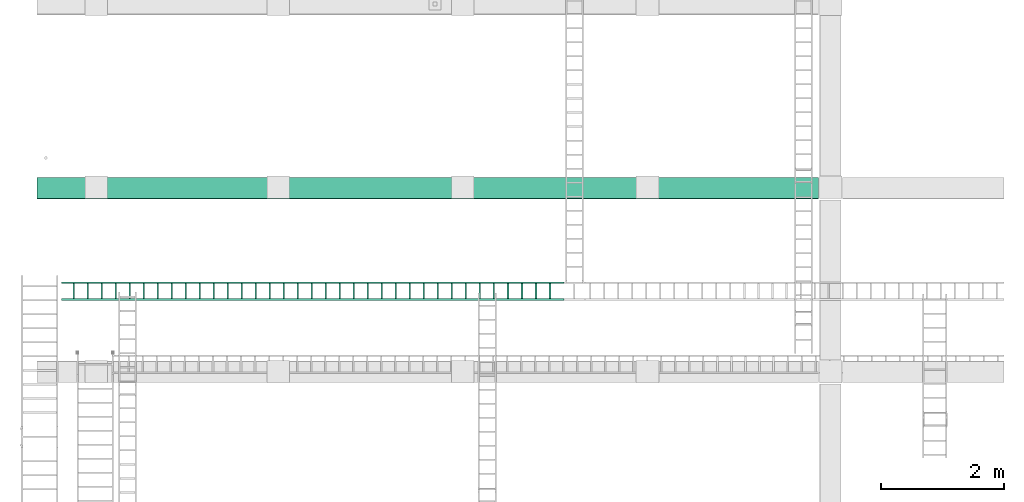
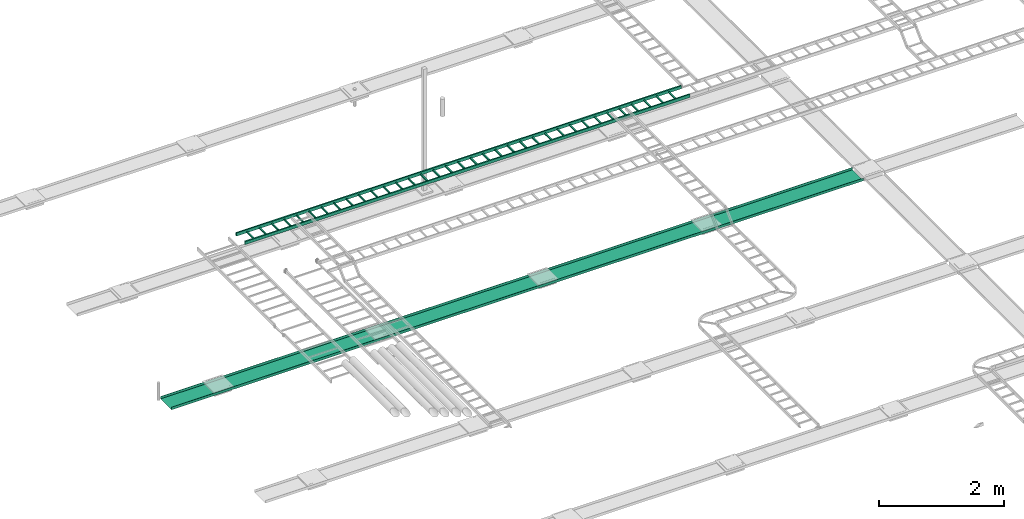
# One storey, part 10 of 16: 2 flow segments.
"""IFC2X3 building model written with IfcOpenShell, lengths in millimetres."""

from ifc_helpers import new_model, entity, si_unit, converted_unit, derived_unit, direction, frame, origin_with_axes, place, context, subcontext, project, spatial, open_shell, faceted_brep, surface_model, source, transform, mapped, type_object, element, save


model = new_model("IFC2X3")

# Units and contexts
model_context = context("Model", 3, precision=0.01, world=frame((0.0, 4.29681676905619e-09, 0.0)), true_north=direction((4.01073788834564e-13, 1.0)))
plan_context = context("Plan", 3, precision=0.01, world=frame((0.0, 4.29681676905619e-09, 0.0)), true_north=direction((4.01073788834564e-13, 1.0)))
body_context = subcontext(model_context, "Body", "Model", "MODEL_VIEW")
ifc_project = project(units=[converted_unit("PLANEANGLEUNIT", "DEGREE", entity("IfcPositiveLengthMeasure", 0.0174532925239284), si_unit("PLANEANGLEUNIT", "RADIAN"), dimensions=[0, 0, 0, 0, 0, 0, 0]), si_unit("AREAUNIT", "SQUARE_METRE"), si_unit("LENGTHUNIT", "METRE", prefix="MILLI"), si_unit("MASSUNIT", "GRAM", prefix="KILO"), si_unit("POWERUNIT", "WATT"), si_unit("PRESSUREUNIT", "PASCAL"), si_unit("FORCEUNIT", "NEWTON", prefix="KILO"), si_unit("ELECTRICVOLTAGEUNIT", "VOLT"), si_unit("ELECTRICCURRENTUNIT", "AMPERE"), si_unit("THERMODYNAMICTEMPERATUREUNIT", "DEGREE_CELSIUS"), si_unit("TIMEUNIT", "SECOND"), si_unit("VOLUMEUNIT", "CUBIC_METRE"), derived_unit("LINEARVELOCITYUNIT", [(si_unit("LENGTHUNIT", "METRE"), 1), (si_unit("TIMEUNIT", "SECOND"), -1)]), derived_unit("VOLUMETRICFLOWRATEUNIT", [(si_unit("VOLUMEUNIT", "CUBIC_METRE"), 1), (si_unit("TIMEUNIT", "SECOND"), -1)]), derived_unit("THERMALTRANSMITTANCEUNIT", [(si_unit("POWERUNIT", "WATT"), 1), (si_unit("THERMODYNAMICTEMPERATUREUNIT", "KELVIN"), -1), (si_unit("AREAUNIT", "SQUARE_METRE"), -1)]), derived_unit("SOUNDPRESSUREUNIT", [(si_unit("PRESSUREUNIT", "PASCAL"), 1)])], contexts=[model_context, plan_context])

# Site, building, storey
site_placement = place(None, frame((0.0, -4.29681676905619e-09, 0.0), z_axis=(0.0, 0.0, 1.0), x_axis=(1.0, 0.0, 0.0)))
site = spatial("IfcSite", under=ifc_project, at=site_placement, Name="ENGM", CompositionType="ELEMENT")
building_placement = place(site_placement, frame((0.0, 4.29681676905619e-09, 0.0), z_axis=(0.0, 0.0, 1.0), x_axis=(1.0, 0.0, 0.0)))
building = spatial("IfcBuilding", under=site, at=building_placement, Name="TS", CompositionType="ELEMENT")
storey_placement = place(building_placement, frame((0.0, 0.0, 210900.0), z_axis=(0.0, 0.0, 1.0), x_axis=(1.0, 0.0, 0.0)))
storey = spatial("IfcBuildingStorey", under=building, at=storey_placement, Name="Nivå F", CompositionType="ELEMENT", Elevation=210900.0)

# Flow segments
cable_carrier_segment_type_1 = type_object("IfcCableCarrierSegmentType", Name="Kabelbro", PredefinedType="CABLELADDERSEGMENT")
shared_shape = source(origin_with_axes(), body_context, "Body", "SurfaceModel", [
    surface_model("IfcShellBasedSurfaceModel", [(0.0, -124.6, -30.0), (0.0, -150.0, -30.0), (0.0, -150.0, 30.0), (0.0, -124.6, 30.0), (0.0, 150.0, -30.0), (0.0, 124.6, -30.0), (0.0, 124.6, 30.0), (0.0, 150.0, 30.0), (241.30001, -124.6, -30.0), (241.30001, -124.6, -4.6), (215.89999, -124.6, -4.6), (215.89999, -124.6, -30.0), (215.89999, 124.6, -4.6), (241.30001, 124.6, -4.6), (241.30001, 124.6, -30.0), (215.89999, 124.6, -30.0), (469.89999, -124.6, -30.0), (469.89999, -124.6, -4.6), (444.50001, -124.6, -4.6), (444.50001, -124.6, -30.0), (444.50001, 124.6, -4.6), (469.89999, 124.6, -4.6), (469.89999, 124.6, -30.0), (444.50001, 124.6, -30.0), (698.50002, -124.6, -30.0), (698.50002, -124.6, -4.6), (673.09998, -124.6, -4.6), (673.09998, -124.6, -30.0), (673.09998, 124.6, -4.6), (698.50002, 124.6, -4.6), (698.50002, 124.6, -30.0), (673.09998, 124.6, -30.0), (927.10002, -124.6, -30.0), (927.10002, -124.6, -4.6), (901.69998, -124.6, -4.6), (901.69998, -124.6, -30.0), (901.69998, 124.6, -4.6), (927.10002, 124.6, -4.6), (927.10002, 124.6, -30.0), (901.69998, 124.6, -30.0), (1155.70002, -124.6, -30.0), (1155.70002, -124.6, -4.6), (1130.29998, -124.6, -4.6), (1130.29998, -124.6, -30.0), (1130.29998, 124.6, -4.6), (1155.70002, 124.6, -4.6), (1155.70002, 124.6, -30.0), (1130.29998, 124.6, -30.0), (1384.29995, -124.6, -30.0), (1384.29995, -124.6, -4.6), (1358.90005, -124.6, -4.6), (1358.90005, -124.6, -30.0), (1358.90005, 124.6, -4.6), (1384.29995, 124.6, -4.6), (1384.29995, 124.6, -30.0), (1358.90005, 124.6, -30.0), (1612.89995, -124.6, -30.0), (1612.89995, -124.6, -4.6), (1587.50005, -124.6, -4.6), (1587.50005, -124.6, -30.0), (1587.50005, 124.6, -4.6), (1612.89995, 124.6, -4.6), (1612.89995, 124.6, -30.0), (1587.50005, 124.6, -30.0), (1841.49995, -124.6, -30.0), (1841.49995, -124.6, -4.6), (1816.10005, -124.6, -4.6), (1816.10005, -124.6, -30.0), (1816.10005, 124.6, -4.6), (1841.49995, 124.6, -4.6), (1841.49995, 124.6, -30.0), (1816.10005, 124.6, -30.0), (2070.09995, -124.6, -30.0), (2070.09995, -124.6, -4.6), (2044.70005, -124.6, -4.6), (2044.70005, -124.6, -30.0), (2044.70005, 124.6, -4.6), (2070.09995, 124.6, -4.6), (2070.09995, 124.6, -30.0), (2044.70005, 124.6, -30.0), (2298.69995, -124.6, -30.0), (2298.69995, -124.6, -4.6), (2273.30005, -124.6, -4.6), (2273.30005, -124.6, -30.0), (2273.30005, 124.6, -4.6), (2298.69995, 124.6, -4.6), (2298.69995, 124.6, -30.0), (2273.30005, 124.6, -30.0), (2527.3001, -124.6, -30.0), (2527.3001, -124.6, -4.6), (2501.8999, -124.6, -4.6), (2501.8999, -124.6, -30.0), (2501.8999, 124.6, -4.6), (2527.3001, 124.6, -4.6), (2527.3001, 124.6, -30.0), (2501.8999, 124.6, -30.0), (2755.9001, -124.6, -30.0), (2755.9001, -124.6, -4.6), (2730.4999, -124.6, -4.6), (2730.4999, -124.6, -30.0), (2730.4999, 124.6, -4.6), (2755.9001, 124.6, -4.6), (2755.9001, 124.6, -30.0), (2730.4999, 124.6, -30.0), (2984.5001, -124.6, -30.0), (2984.5001, -124.6, -4.6), (2959.0999, -124.6, -4.6), (2959.0999, -124.6, -30.0), (2959.0999, 124.6, -4.6), (2984.5001, 124.6, -4.6), (2984.5001, 124.6, -30.0), (2959.0999, 124.6, -30.0), (3213.1001, -124.6, -30.0), (3213.1001, -124.6, -4.6), (3187.6999, -124.6, -4.6), (3187.6999, -124.6, -30.0), (3187.6999, 124.6, -4.6), (3213.1001, 124.6, -4.6), (3213.1001, 124.6, -30.0), (3187.6999, 124.6, -30.0), (3441.7001, -124.6, -30.0), (3441.7001, -124.6, -4.6), (3416.2999, -124.6, -4.6), (3416.2999, -124.6, -30.0), (3416.2999, 124.6, -4.6), (3441.7001, 124.6, -4.6), (3441.7001, 124.6, -30.0), (3416.2999, 124.6, -30.0), (3670.3001, -124.6, -30.0), (3670.3001, -124.6, -4.6), (3644.8999, -124.6, -4.6), (3644.8999, -124.6, -30.0), (3644.8999, 124.6, -4.6), (3670.3001, 124.6, -4.6), (3670.3001, 124.6, -30.0), (3644.8999, 124.6, -30.0), (3898.9001, -124.6, -30.0), (3898.9001, -124.6, -4.6), (3873.4999, -124.6, -4.6), (3873.4999, -124.6, -30.0), (3873.4999, 124.6, -4.6), (3898.9001, 124.6, -4.6), (3898.9001, 124.6, -30.0), (3873.4999, 124.6, -30.0), (4127.5001, -124.6, -30.0), (4127.5001, -124.6, -4.6), (4102.0999, -124.6, -4.6), (4102.0999, -124.6, -30.0), (4102.0999, 124.6, -4.6), (4127.5001, 124.6, -4.6), (4127.5001, 124.6, -30.0), (4102.0999, 124.6, -30.0), (4356.1001, -124.6, -30.0), (4356.1001, -124.6, -4.6), (4330.6999, -124.6, -4.6), (4330.6999, -124.6, -30.0), (4330.6999, 124.6, -4.6), (4356.1001, 124.6, -4.6), (4356.1001, 124.6, -30.0), (4330.6999, 124.6, -30.0), (4584.7001, -124.6, -30.0), (4584.7001, -124.6, -4.6), (4559.2999, -124.6, -4.6), (4559.2999, -124.6, -30.0), (4559.2999, 124.6, -4.6), (4584.7001, 124.6, -4.6), (4584.7001, 124.6, -30.0), (4559.2999, 124.6, -30.0), (4813.3001, -124.6, -30.0), (4813.3001, -124.6, -4.6), (4787.8999, -124.6, -4.6), (4787.8999, -124.6, -30.0), (4787.8999, 124.6, -4.6), (4813.3001, 124.6, -4.6), (4813.3001, 124.6, -30.0), (4787.8999, 124.6, -30.0), (5041.89981, -124.6, -30.0), (5041.89981, -124.6, -4.6), (5016.50019, -124.6, -4.6), (5016.50019, -124.6, -30.0), (5016.50019, 124.6, -4.6), (5041.89981, 124.6, -4.6), (5041.89981, 124.6, -30.0), (5016.50019, 124.6, -30.0), (5270.49981, -124.6, -30.0), (5270.49981, -124.6, -4.6), (5245.10019, -124.6, -4.6), (5245.10019, -124.6, -30.0), (5245.10019, 124.6, -4.6), (5270.49981, 124.6, -4.6), (5270.49981, 124.6, -30.0), (5245.10019, 124.6, -30.0), (5499.09981, -124.6, -4.6), (5499.09981, -124.6, -30.0), (5499.09981, 124.6, -30.0), (5499.09981, 124.6, -4.6), (5473.70019, -124.6, -4.6), (5473.70019, 124.6, -4.6), (5473.70019, -124.6, -30.0), (5473.70019, 124.6, -30.0), (5727.69981, -124.6, -4.6), (5727.69981, -124.6, -30.0), (5727.69981, 124.6, -30.0), (5727.69981, 124.6, -4.6), (5702.30019, -124.6, -4.6), (5702.30019, 124.6, -4.6), (5702.30019, -124.6, -30.0), (5702.30019, 124.6, -30.0), (5956.29981, -124.6, -4.6), (5956.29981, -124.6, -30.0), (5956.29981, 124.6, -30.0), (5956.29981, 124.6, -4.6), (5930.90019, -124.6, -4.6), (5930.90019, 124.6, -4.6), (5930.90019, -124.6, -30.0), (5930.90019, 124.6, -30.0), (6184.89981, -124.6, -4.6), (6184.89981, -124.6, -30.0), (6184.89981, 124.6, -30.0), (6184.89981, 124.6, -4.6), (6159.50019, -124.6, -4.6), (6159.50019, 124.6, -4.6), (6159.50019, -124.6, -30.0), (6159.50019, 124.6, -30.0), (6413.49981, -124.6, -4.6), (6413.49981, -124.6, -30.0), (6413.49981, 124.6, -30.0), (6413.49981, 124.6, -4.6), (6388.10019, -124.6, -4.6), (6388.10019, 124.6, -4.6), (6388.10019, -124.6, -30.0), (6388.10019, 124.6, -30.0), (6642.09981, -124.6, -4.6), (6642.09981, -124.6, -30.0), (6642.09981, 124.6, -30.0), (6642.09981, 124.6, -4.6), (6616.70019, -124.6, -4.6), (6616.70019, 124.6, -4.6), (6616.70019, -124.6, -30.0), (6616.70019, 124.6, -30.0), (6870.69981, -124.6, -4.6), (6870.69981, -124.6, -30.0), (6870.69981, 124.6, -30.0), (6870.69981, 124.6, -4.6), (6845.30019, -124.6, -4.6), (6845.30019, 124.6, -4.6), (6845.30019, -124.6, -30.0), (6845.30019, 124.6, -30.0), (7099.29981, -124.6, -4.6), (7099.29981, -124.6, -30.0), (7099.29981, 124.6, -30.0), (7099.29981, 124.6, -4.6), (7073.90019, -124.6, -4.6), (7073.90019, 124.6, -4.6), (7073.90019, -124.6, -30.0), (7073.90019, 124.6, -30.0), (7327.89981, -124.6, -4.6), (7327.89981, -124.6, -30.0), (7327.89981, 124.6, -30.0), (7327.89981, 124.6, -4.6), (7302.50019, -124.6, -4.6), (7302.50019, 124.6, -4.6), (7302.50019, -124.6, -30.0), (7302.50019, 124.6, -30.0), (7531.10019, -124.6, -4.6), (7531.10019, -124.6, -30.0), (7556.49981, -124.6, -30.0), (7556.49981, -124.6, -4.6), (7556.49981, 124.6, -30.0), (7531.10019, 124.6, -30.0), (7531.10019, 124.6, -4.6), (7556.49981, 124.6, -4.6), (7759.70019, -124.6, -4.6), (7759.70019, -124.6, -30.0), (7785.09981, -124.6, -30.0), (7785.09981, -124.6, -4.6), (7785.09981, 124.6, -30.0), (7759.70019, 124.6, -30.0), (7759.70019, 124.6, -4.6), (7785.09981, 124.6, -4.6), (7988.30019, -124.6, -4.6), (7988.30019, -124.6, -30.0), (8013.69981, -124.6, -30.0), (8013.69981, -124.6, -4.6), (8013.69981, 124.6, -30.0), (7988.30019, 124.6, -30.0), (7988.30019, 124.6, -4.6), (8013.69981, 124.6, -4.6), (8199.26174, -150.0, 30.0), (8199.26174, -150.0, -30.0), (8199.26174, -124.6, -30.0), (8199.26174, -124.6, 30.0), (8199.26174, 124.6, 30.0), (8199.26174, 124.6, -30.0), (8199.26174, 150.0, -30.0), (8199.26174, 150.0, 30.0)], [open_shell([[[0, 1, 2]], [[2, 3, 0]], [[4, 5, 6]], [[6, 7, 4]], [[8, 9, 10]], [[10, 11, 8]], [[12, 13, 14]], [[14, 15, 12]], [[9, 8, 14]], [[14, 13, 9]], [[10, 9, 12]], [[13, 12, 9]], [[11, 10, 12]], [[12, 15, 11]], [[8, 11, 14]], [[15, 14, 11]], [[16, 17, 18]], [[18, 19, 16]], [[20, 21, 22]], [[22, 23, 20]], [[17, 16, 22]], [[22, 21, 17]], [[18, 17, 20]], [[21, 20, 17]], [[19, 18, 20]], [[20, 23, 19]], [[16, 19, 22]], [[23, 22, 19]], [[24, 25, 26]], [[26, 27, 24]], [[28, 29, 30]], [[30, 31, 28]], [[25, 24, 30]], [[30, 29, 25]], [[26, 25, 28]], [[29, 28, 25]], [[27, 26, 28]], [[28, 31, 27]], [[24, 27, 30]], [[31, 30, 27]], [[32, 33, 34]], [[34, 35, 32]], [[36, 37, 38]], [[38, 39, 36]], [[33, 32, 38]], [[38, 37, 33]], [[34, 33, 36]], [[37, 36, 33]], [[35, 34, 36]], [[36, 39, 35]], [[32, 35, 38]], [[39, 38, 35]], [[40, 41, 42]], [[42, 43, 40]], [[44, 45, 46]], [[46, 47, 44]], [[41, 40, 46]], [[46, 45, 41]], [[42, 41, 44]], [[45, 44, 41]], [[43, 42, 44]], [[44, 47, 43]], [[40, 43, 46]], [[47, 46, 43]], [[48, 49, 50]], [[50, 51, 48]], [[52, 53, 54]], [[54, 55, 52]], [[49, 48, 54]], [[54, 53, 49]], [[50, 49, 52]], [[53, 52, 49]], [[51, 50, 52]], [[52, 55, 51]], [[48, 51, 54]], [[55, 54, 51]], [[56, 57, 58]], [[58, 59, 56]], [[60, 61, 62]], [[62, 63, 60]], [[57, 56, 62]], [[62, 61, 57]], [[58, 57, 60]], [[61, 60, 57]], [[59, 58, 60]], [[60, 63, 59]], [[56, 59, 62]], [[63, 62, 59]], [[64, 65, 66]], [[66, 67, 64]], [[68, 69, 70]], [[70, 71, 68]], [[65, 64, 70]], [[70, 69, 65]], [[66, 65, 68]], [[69, 68, 65]], [[67, 66, 68]], [[68, 71, 67]], [[64, 67, 70]], [[71, 70, 67]], [[72, 73, 74]], [[74, 75, 72]], [[76, 77, 78]], [[78, 79, 76]], [[73, 72, 78]], [[78, 77, 73]], [[74, 73, 76]], [[77, 76, 73]], [[75, 74, 76]], [[76, 79, 75]], [[72, 75, 78]], [[79, 78, 75]], [[80, 81, 82]], [[82, 83, 80]], [[84, 85, 86]], [[86, 87, 84]], [[81, 80, 86]], [[86, 85, 81]], [[82, 81, 84]], [[85, 84, 81]], [[83, 82, 84]], [[84, 87, 83]], [[80, 83, 86]], [[87, 86, 83]], [[88, 89, 90]], [[90, 91, 88]], [[92, 93, 94]], [[94, 95, 92]], [[89, 88, 94]], [[94, 93, 89]], [[90, 89, 92]], [[93, 92, 89]], [[91, 90, 92]], [[92, 95, 91]], [[88, 91, 94]], [[95, 94, 91]], [[96, 97, 98]], [[98, 99, 96]], [[100, 101, 102]], [[102, 103, 100]], [[97, 96, 102]], [[102, 101, 97]], [[98, 97, 100]], [[101, 100, 97]], [[99, 98, 100]], [[100, 103, 99]], [[96, 99, 102]], [[103, 102, 99]], [[104, 105, 106]], [[106, 107, 104]], [[108, 109, 110]], [[110, 111, 108]], [[105, 104, 110]], [[110, 109, 105]], [[106, 105, 108]], [[109, 108, 105]], [[107, 106, 108]], [[108, 111, 107]], [[104, 107, 110]], [[111, 110, 107]], [[112, 113, 114]], [[114, 115, 112]], [[116, 117, 118]], [[118, 119, 116]], [[113, 112, 118]], [[118, 117, 113]], [[114, 113, 116]], [[117, 116, 113]], [[115, 114, 116]], [[116, 119, 115]], [[112, 115, 118]], [[119, 118, 115]], [[120, 121, 122]], [[122, 123, 120]], [[124, 125, 126]], [[126, 127, 124]], [[121, 120, 126]], [[126, 125, 121]], [[122, 121, 124]], [[125, 124, 121]], [[123, 122, 124]], [[124, 127, 123]], [[120, 123, 126]], [[127, 126, 123]], [[128, 129, 130]], [[130, 131, 128]], [[132, 133, 134]], [[134, 135, 132]], [[129, 128, 134]], [[134, 133, 129]], [[130, 129, 132]], [[133, 132, 129]], [[131, 130, 132]], [[132, 135, 131]], [[128, 131, 134]], [[135, 134, 131]], [[136, 137, 138]], [[138, 139, 136]], [[140, 141, 142]], [[142, 143, 140]], [[137, 136, 142]], [[142, 141, 137]], [[138, 137, 140]], [[141, 140, 137]], [[139, 138, 140]], [[140, 143, 139]], [[136, 139, 142]], [[143, 142, 139]], [[144, 145, 146]], [[146, 147, 144]], [[148, 149, 150]], [[150, 151, 148]], [[145, 144, 150]], [[150, 149, 145]], [[146, 145, 148]], [[149, 148, 145]], [[147, 146, 148]], [[148, 151, 147]], [[144, 147, 150]], [[151, 150, 147]], [[152, 153, 154]], [[154, 155, 152]], [[156, 157, 158]], [[158, 159, 156]], [[153, 152, 158]], [[158, 157, 153]], [[154, 153, 156]], [[157, 156, 153]], [[155, 154, 156]], [[156, 159, 155]], [[152, 155, 158]], [[159, 158, 155]], [[160, 161, 162]], [[162, 163, 160]], [[164, 165, 166]], [[166, 167, 164]], [[161, 160, 166]], [[166, 165, 161]], [[162, 161, 164]], [[165, 164, 161]], [[163, 162, 164]], [[164, 167, 163]], [[160, 163, 166]], [[167, 166, 163]], [[168, 169, 170]], [[170, 171, 168]], [[172, 173, 174]], [[174, 175, 172]], [[169, 168, 174]], [[174, 173, 169]], [[170, 169, 172]], [[173, 172, 169]], [[171, 170, 172]], [[172, 175, 171]], [[168, 171, 174]], [[175, 174, 171]], [[176, 177, 178]], [[178, 179, 176]], [[180, 181, 182]], [[182, 183, 180]], [[177, 176, 182]], [[182, 181, 177]], [[178, 177, 180]], [[181, 180, 177]], [[179, 178, 180]], [[180, 183, 179]], [[176, 179, 182]], [[183, 182, 179]], [[184, 185, 186]], [[186, 187, 184]], [[188, 189, 190]], [[190, 191, 188]], [[185, 184, 190]], [[190, 189, 185]], [[186, 185, 188]], [[189, 188, 185]], [[187, 186, 188]], [[188, 191, 187]], [[184, 187, 190]], [[191, 190, 187]], [[192, 193, 194]], [[194, 195, 192]], [[196, 192, 197]], [[195, 197, 192]], [[198, 196, 197]], [[197, 199, 198]], [[193, 198, 194]], [[199, 194, 198]], [[200, 201, 202]], [[202, 203, 200]], [[204, 200, 205]], [[203, 205, 200]], [[206, 204, 205]], [[205, 207, 206]], [[201, 206, 202]], [[207, 202, 206]], [[208, 209, 210]], [[210, 211, 208]], [[212, 208, 213]], [[211, 213, 208]], [[214, 212, 213]], [[213, 215, 214]], [[209, 214, 210]], [[215, 210, 214]], [[216, 217, 218]], [[218, 219, 216]], [[220, 216, 221]], [[219, 221, 216]], [[222, 220, 221]], [[221, 223, 222]], [[217, 222, 218]], [[223, 218, 222]], [[224, 225, 226]], [[226, 227, 224]], [[228, 224, 229]], [[227, 229, 224]], [[230, 228, 229]], [[229, 231, 230]], [[225, 230, 226]], [[231, 226, 230]], [[232, 233, 234]], [[234, 235, 232]], [[236, 232, 237]], [[235, 237, 232]], [[238, 236, 237]], [[237, 239, 238]], [[233, 238, 234]], [[239, 234, 238]], [[240, 241, 242]], [[242, 243, 240]], [[244, 240, 245]], [[243, 245, 240]], [[246, 244, 245]], [[245, 247, 246]], [[241, 246, 242]], [[247, 242, 246]], [[248, 249, 250]], [[250, 251, 248]], [[252, 248, 253]], [[251, 253, 248]], [[254, 252, 253]], [[253, 255, 254]], [[249, 254, 250]], [[255, 250, 254]], [[256, 257, 258]], [[258, 259, 256]], [[260, 256, 261]], [[259, 261, 256]], [[262, 260, 261]], [[261, 263, 262]], [[257, 262, 258]], [[263, 258, 262]], [[196, 198, 193]], [[193, 192, 196]], [[194, 199, 197]], [[197, 195, 194]], [[204, 206, 201]], [[201, 200, 204]], [[202, 207, 205]], [[205, 203, 202]], [[212, 214, 209]], [[209, 208, 212]], [[210, 215, 213]], [[213, 211, 210]], [[220, 222, 217]], [[217, 216, 220]], [[218, 223, 221]], [[221, 219, 218]], [[228, 230, 225]], [[225, 224, 228]], [[226, 231, 229]], [[229, 227, 226]], [[236, 238, 233]], [[233, 232, 236]], [[234, 239, 237]], [[237, 235, 234]], [[244, 246, 241]], [[241, 240, 244]], [[242, 247, 245]], [[245, 243, 242]], [[252, 254, 249]], [[249, 248, 252]], [[250, 255, 253]], [[253, 251, 250]], [[260, 262, 257]], [[257, 256, 260]], [[258, 263, 261]], [[261, 259, 258]], [[264, 265, 266]], [[266, 267, 264]], [[268, 269, 270]], [[270, 271, 268]], [[267, 266, 268]], [[268, 271, 267]], [[264, 267, 270]], [[271, 270, 267]], [[265, 264, 270]], [[270, 269, 265]], [[266, 265, 268]], [[269, 268, 265]], [[272, 273, 274]], [[274, 275, 272]], [[276, 277, 278]], [[278, 279, 276]], [[275, 274, 276]], [[276, 279, 275]], [[272, 275, 278]], [[279, 278, 275]], [[273, 272, 278]], [[278, 277, 273]], [[274, 273, 276]], [[277, 276, 273]], [[280, 281, 282]], [[282, 283, 280]], [[284, 285, 286]], [[286, 287, 284]], [[283, 282, 284]], [[284, 287, 283]], [[280, 283, 286]], [[287, 286, 283]], [[281, 280, 286]], [[286, 285, 281]], [[282, 281, 284]], [[285, 284, 281]], [[288, 289, 290]], [[290, 291, 288]], [[292, 293, 294]], [[294, 295, 292]], [[2, 1, 288]], [[289, 288, 1]], [[3, 2, 291]], [[288, 291, 2]], [[0, 3, 290]], [[291, 290, 3]], [[1, 0, 289]], [[290, 289, 0]], [[4, 7, 294]], [[295, 294, 7]], [[5, 4, 293]], [[294, 293, 4]], [[6, 5, 292]], [[293, 292, 5]], [[7, 6, 295]], [[292, 295, 6]]])]),
])
flow_segment_1_placement = place(storey_placement, frame((529143.60037, 453316.47234, 4050.0), z_axis=(0.0, 0.0, 1.0), x_axis=(-1.0, 0.0, 0.0)))
element("IfcFlowSegment", 1, at=flow_segment_1_placement, inside=storey, type_object=cable_carrier_segment_type_1, Name="Kabelbro", context=body_context, shape_type="MappedRepresentation", body=[
    mapped(shared_shape, transform((0.0, 0.0, 0.0), scale=1.0)),
])
cable_carrier_segment_type_2 = type_object("IfcCableCarrierSegmentType", Name="Kabelbane", PredefinedType="CABLETRAYSEGMENT")
flow_segment_2_placement = place(storey_placement, frame((512694.6625, 454995.98922, -35.0), z_axis=(0.0, 0.0, 1.0), x_axis=(1.0, 0.0, 0.0)))
element("IfcFlowSegment", 2, at=flow_segment_2_placement, inside=storey, type_object=cable_carrier_segment_type_2, Name="Kabelbane", context=body_context, shape_type="Brep", body=[
    faceted_brep([(20599.84493, -175.0, 25.0), (20599.84493, -172.46, -22.46), (20599.84493, -175.0, -25.0), (20599.84493, -172.46, 25.0), (20599.84493, 175.0, -25.0), (20599.84493, 172.46, -22.46), (20599.84493, 175.0, 25.0), (20599.84493, 172.46, 25.0), (7850.32500002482, -175.0, -25.0), (7850.32500002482, -175.0, 5.94566967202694), (7850.32500002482, -175.0, 25.0), (7850.32500002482, -173.427959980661, 25.0), (7850.32500002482, -172.46, 25.0), (7850.32500002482, -172.46, -4.37362965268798), (7850.32500002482, -172.46, -22.46), (7850.32500002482, -41.0156076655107, -22.46), (7850.32500002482, 172.46, -22.46), (7850.32500002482, 172.46, 6.91362965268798), (7850.32500002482, 172.46, 25.0), (7850.32500002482, 174.032040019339, 25.0), (7850.32500002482, 175.0, 25.0), (7850.32500002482, 175.0, -5.94566967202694), (7850.32500002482, 175.0, -25.0), (7850.32500002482, 41.6196877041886, -25.0)], [[[0, 1, 2]], [[1, 0, 3]], [[4, 2, 1]], [[1, 5, 4]], [[6, 4, 5]], [[5, 7, 6]], [[8, 9, 2]], [[9, 10, 0, 2]], [[10, 11, 0]], [[11, 12, 3, 0]], [[12, 13, 3]], [[13, 14, 1, 3]], [[15, 16, 5]], [[14, 15, 5, 1]], [[16, 17, 5]], [[17, 18, 7, 5]], [[18, 19, 7]], [[19, 20, 6, 7]], [[20, 21, 6]], [[21, 22, 4, 6]], [[23, 8, 2]], [[22, 23, 2, 4]], [[23, 22, 21, 20, 19, 18, 17, 16, 15, 14, 13, 12, 11, 10, 9, 8]]], orient=[[False], [False], [False], [False], [False], [False], [False], [False], [False], [False], [False], [False], [False], [False], [False], [False], [False], [False], [False], [False], [False], [False], [False]]),
])

save(model, "model.ifc")
